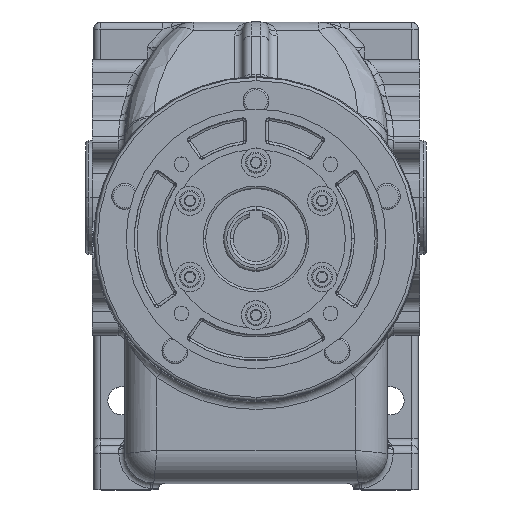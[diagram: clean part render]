
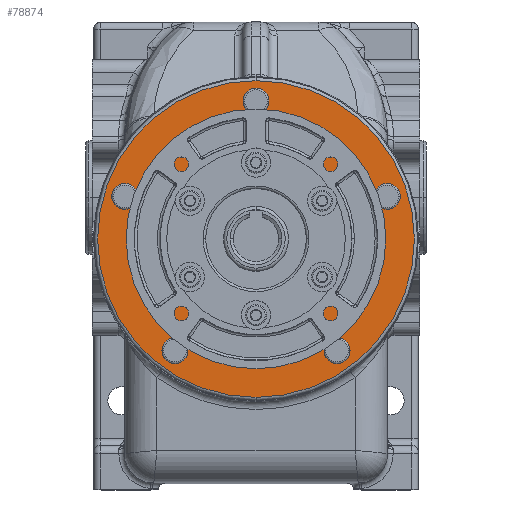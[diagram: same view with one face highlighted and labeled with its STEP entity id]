
A CAD part, top view. The second image highlights one B-rep face of the part: STEP entity #78874.
In plain terms, the highlighted planar face has unit normal (0, 0, 1).
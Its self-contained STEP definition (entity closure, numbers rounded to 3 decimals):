
#11516 = CARTESIAN_POINT ( 'NONE',  ( -57.962, -94.649, 217. ) ) ;
#13809 = CARTESIAN_POINT ( 'NONE',  ( 57.962, -94.649, 217. ) ) ;
#14915 = DIRECTION ( 'NONE',  ( 1., 0., 0. ) ) ;
#14916 = DIRECTION ( 'NONE',  ( 0., 0., 1. ) ) ;
#14917 = CARTESIAN_POINT ( 'NONE',  ( -80.84, 0.384, 217. ) ) ;
#14918 = AXIS2_PLACEMENT_3D ( 'NONE', #14917, #14916, #14915 ) ;
#14919 = CIRCLE ( 'NONE', #14918, 8. ) ;
#14972 = CARTESIAN_POINT ( 'NONE',  ( -88.84, 0.384, 217. ) ) ;
#14978 = DIRECTION ( 'NONE',  ( 1., 0., 0. ) ) ;
#14979 = DIRECTION ( 'NONE',  ( 0., 0., 1. ) ) ;
#14980 = CARTESIAN_POINT ( 'NONE',  ( -49.962, -94.649, 217. ) ) ;
#14981 = AXIS2_PLACEMENT_3D ( 'NONE', #14980, #14979, #14978 ) ;
#14982 = CIRCLE ( 'NONE', #14981, 8. ) ;
#15217 = CARTESIAN_POINT ( 'NONE',  ( -72.84, 0.384, 217. ) ) ;
#15262 = CARTESIAN_POINT ( 'NONE',  ( -41.962, -94.649, 217. ) ) ;
#74820 = VERTEX_POINT ( 'NONE', #100424 ) ;
#74821 = EDGE_CURVE ( 'NONE', #74820, #74822, #100423, .T. ) ;
#74822 = VERTEX_POINT ( 'NONE', #100418 ) ;
#74889 = EDGE_CURVE ( 'NONE', #80994, #74891, #106280, .T. ) ;
#74891 = VERTEX_POINT ( 'NONE', #106271 ) ;
#74893 = VERTEX_POINT ( 'NONE', #106403 ) ;
#74896 = EDGE_CURVE ( 'NONE', #74893, #74897, #106397, .T. ) ;
#74897 = VERTEX_POINT ( 'NONE', #106388 ) ;
#75851 = EDGE_LOOP ( 'NONE', ( #77087, #78990 ) ) ;
#77087 = ORIENTED_EDGE ( 'NONE', *, *, #78988, .F. ) ;
#77114 = EDGE_CURVE ( 'NONE', #77115, #77116, #121313, .T. ) ;
#77115 = VERTEX_POINT ( 'NONE', #121308 ) ;
#77116 = VERTEX_POINT ( 'NONE', #121307 ) ;
#77152 = VERTEX_POINT ( 'NONE', #121409 ) ;
#77234 = EDGE_CURVE ( 'NONE', #77235, #77152, #121566, .T. ) ;
#77235 = VERTEX_POINT ( 'NONE', #121561 ) ;
#78855 = EDGE_CURVE ( 'NONE', #74822, #74820, #125036, .T. ) ;
#78874 = ADVANCED_FACE ( 'NONE', ( #125067, #125066, #125065, #125064, #125063, #125062, #125061 ), #125060, .T. ) ;
#78877 = EDGE_LOOP ( 'NONE', ( #78878, #78881 ) ) ;
#78878 = ORIENTED_EDGE ( 'NONE', *, *, #78880, .F. ) ;
#78880 = EDGE_CURVE ( 'NONE', #80858, #81394, #125049, .T. ) ;
#78881 = ORIENTED_EDGE ( 'NONE', *, *, #81245, .F. ) ;
#78960 = ORIENTED_EDGE ( 'NONE', *, *, #74821, .F. ) ;
#78962 = EDGE_LOOP ( 'NONE', ( #78963, #78966 ) ) ;
#78963 = ORIENTED_EDGE ( 'NONE', *, *, #78965, .F. ) ;
#78965 = EDGE_CURVE ( 'NONE', #74891, #80994, #125190, .T. ) ;
#78966 = ORIENTED_EDGE ( 'NONE', *, *, #74889, .F. ) ;
#78969 = EDGE_LOOP ( 'NONE', ( #78971, #78975 ) ) ;
#78971 = ORIENTED_EDGE ( 'NONE', *, *, #78973, .F. ) ;
#78973 = EDGE_CURVE ( 'NONE', #81251, #81384, #125239, .T. ) ;
#78975 = ORIENTED_EDGE ( 'NONE', *, *, #81240, .F. ) ;
#78988 = EDGE_CURVE ( 'NONE', #74897, #74893, #125283, .T. ) ;
#78990 = ORIENTED_EDGE ( 'NONE', *, *, #74896, .F. ) ;
#78992 = EDGE_LOOP ( 'NONE', ( #78993, #78995 ) ) ;
#78993 = ORIENTED_EDGE ( 'NONE', *, *, #77234, .F. ) ;
#78995 = ORIENTED_EDGE ( 'NONE', *, *, #78997, .F. ) ;
#78997 = EDGE_CURVE ( 'NONE', #77152, #77235, #125271, .T. ) ;
#79000 = EDGE_LOOP ( 'NONE', ( #79002, #79006 ) ) ;
#79002 = ORIENTED_EDGE ( 'NONE', *, *, #79004, .T. ) ;
#79004 = EDGE_CURVE ( 'NONE', #77116, #77115, #125298, .T. ) ;
#79006 = ORIENTED_EDGE ( 'NONE', *, *, #77114, .T. ) ;
#79009 = EDGE_LOOP ( 'NONE', ( #79010, #78960 ) ) ;
#79010 = ORIENTED_EDGE ( 'NONE', *, *, #78855, .F. ) ;
#80858 = VERTEX_POINT ( 'NONE', #11516 ) ;
#80994 = VERTEX_POINT ( 'NONE', #13809 ) ;
#81240 = EDGE_CURVE ( 'NONE', #81384, #81251, #14919, .T. ) ;
#81245 = EDGE_CURVE ( 'NONE', #81394, #80858, #14982, .T. ) ;
#81251 = VERTEX_POINT ( 'NONE', #14972 ) ;
#81384 = VERTEX_POINT ( 'NONE', #15217 ) ;
#81394 = VERTEX_POINT ( 'NONE', #15262 ) ;
#100418 = CARTESIAN_POINT ( 'NONE',  ( -8., 59.117, 217. ) ) ;
#100419 = DIRECTION ( 'NONE',  ( 1., 0., 0. ) ) ;
#100420 = DIRECTION ( 'NONE',  ( 0., 0., 1. ) ) ;
#100421 = CARTESIAN_POINT ( 'NONE',  ( 0., 59.117, 217. ) ) ;
#100422 = AXIS2_PLACEMENT_3D ( 'NONE', #100421, #100420, #100419 ) ;
#100423 = CIRCLE ( 'NONE', #100422, 8. ) ;
#100424 = CARTESIAN_POINT ( 'NONE',  ( 8., 59.117, 217. ) ) ;
#106271 = CARTESIAN_POINT ( 'NONE',  ( 41.962, -94.649, 217. ) ) ;
#106273 = DIRECTION ( 'NONE',  ( 1., 0., 0. ) ) ;
#106275 = DIRECTION ( 'NONE',  ( 0., 0., 1. ) ) ;
#106277 = CARTESIAN_POINT ( 'NONE',  ( 49.962, -94.649, 217. ) ) ;
#106279 = AXIS2_PLACEMENT_3D ( 'NONE', #106277, #106275, #106273 ) ;
#106280 = CIRCLE ( 'NONE', #106279, 8. ) ;
#106388 = CARTESIAN_POINT ( 'NONE',  ( 72.84, 0.384, 217. ) ) ;
#106390 = DIRECTION ( 'NONE',  ( 1., 0., 0. ) ) ;
#106392 = DIRECTION ( 'NONE',  ( 0., 0., 1. ) ) ;
#106394 = CARTESIAN_POINT ( 'NONE',  ( 80.84, 0.384, 217. ) ) ;
#106396 = AXIS2_PLACEMENT_3D ( 'NONE', #106394, #106392, #106390 ) ;
#106397 = CIRCLE ( 'NONE', #106396, 8. ) ;
#106403 = CARTESIAN_POINT ( 'NONE',  ( 88.84, 0.384, 217. ) ) ;
#121307 = CARTESIAN_POINT ( 'NONE',  ( 0., 34.117, 217. ) ) ;
#121308 = CARTESIAN_POINT ( 'NONE',  ( 0., -85.883, 217. ) ) ;
#121309 = DIRECTION ( 'NONE',  ( 0., 1., 0. ) ) ;
#121310 = DIRECTION ( 'NONE',  ( 0., 0., -1. ) ) ;
#121311 = CARTESIAN_POINT ( 'NONE',  ( 0., -25.883, 217. ) ) ;
#121312 = AXIS2_PLACEMENT_3D ( 'NONE', #121311, #121310, #121309 ) ;
#121313 = CIRCLE ( 'NONE', #121312, 60. ) ;
#121409 = CARTESIAN_POINT ( 'NONE',  ( 0., -123.462, 217. ) ) ;
#121561 = CARTESIAN_POINT ( 'NONE',  ( 0., 71.697, 217. ) ) ;
#121562 = DIRECTION ( 'NONE',  ( 0., 1., 0. ) ) ;
#121563 = DIRECTION ( 'NONE',  ( 0., 0., -1. ) ) ;
#121564 = CARTESIAN_POINT ( 'NONE',  ( 0., -25.883, 217. ) ) ;
#121565 = AXIS2_PLACEMENT_3D ( 'NONE', #121564, #121563, #121562 ) ;
#121566 = CIRCLE ( 'NONE', #121565, 97.58 ) ;
#125032 = DIRECTION ( 'NONE',  ( 1., 0., 0. ) ) ;
#125033 = DIRECTION ( 'NONE',  ( 0., 0., 1. ) ) ;
#125034 = CARTESIAN_POINT ( 'NONE',  ( 0., 59.117, 217. ) ) ;
#125035 = AXIS2_PLACEMENT_3D ( 'NONE', #125034, #125033, #125032 ) ;
#125036 = CIRCLE ( 'NONE', #125035, 8. ) ;
#125045 = DIRECTION ( 'NONE',  ( 1., 0., 0. ) ) ;
#125046 = DIRECTION ( 'NONE',  ( 0., 0., 1. ) ) ;
#125047 = CARTESIAN_POINT ( 'NONE',  ( -49.962, -94.649, 217. ) ) ;
#125048 = AXIS2_PLACEMENT_3D ( 'NONE', #125047, #125046, #125045 ) ;
#125049 = CIRCLE ( 'NONE', #125048, 8. ) ;
#125056 = DIRECTION ( 'NONE',  ( 0., -1., 0. ) ) ;
#125057 = DIRECTION ( 'NONE',  ( 0., 0., 1. ) ) ;
#125058 = CARTESIAN_POINT ( 'NONE',  ( 0., 71.697, 217. ) ) ;
#125059 = AXIS2_PLACEMENT_3D ( 'NONE', #125058, #125057, #125056 ) ;
#125060 = PLANE ( 'NONE',  #125059 ) ;
#125061 = FACE_BOUND ( 'NONE', #78969, .T. ) ;
#125062 = FACE_BOUND ( 'NONE', #78962, .T. ) ;
#125063 = FACE_BOUND ( 'NONE', #79009, .T. ) ;
#125064 = FACE_BOUND ( 'NONE', #79000, .T. ) ;
#125065 = FACE_OUTER_BOUND ( 'NONE', #78992, .T. ) ;
#125066 = FACE_BOUND ( 'NONE', #75851, .T. ) ;
#125067 = FACE_BOUND ( 'NONE', #78877, .T. ) ;
#125182 = DIRECTION ( 'NONE',  ( 1., 0., 0. ) ) ;
#125183 = DIRECTION ( 'NONE',  ( 0., 0., 1. ) ) ;
#125184 = CARTESIAN_POINT ( 'NONE',  ( 49.962, -94.649, 217. ) ) ;
#125185 = AXIS2_PLACEMENT_3D ( 'NONE', #125184, #125183, #125182 ) ;
#125190 = CIRCLE ( 'NONE', #125185, 8. ) ;
#125235 = DIRECTION ( 'NONE',  ( 1., 0., 0. ) ) ;
#125236 = DIRECTION ( 'NONE',  ( 0., 0., 1. ) ) ;
#125237 = CARTESIAN_POINT ( 'NONE',  ( -80.84, 0.384, 217. ) ) ;
#125238 = AXIS2_PLACEMENT_3D ( 'NONE', #125237, #125236, #125235 ) ;
#125239 = CIRCLE ( 'NONE', #125238, 8. ) ;
#125263 = DIRECTION ( 'NONE',  ( 0., 1., 0. ) ) ;
#125264 = DIRECTION ( 'NONE',  ( 0., 0., -1. ) ) ;
#125265 = CARTESIAN_POINT ( 'NONE',  ( 0., -25.883, 217. ) ) ;
#125266 = AXIS2_PLACEMENT_3D ( 'NONE', #125265, #125264, #125263 ) ;
#125271 = CIRCLE ( 'NONE', #125266, 97.58 ) ;
#125279 = DIRECTION ( 'NONE',  ( 1., 0., 0. ) ) ;
#125280 = DIRECTION ( 'NONE',  ( 0., 0., 1. ) ) ;
#125281 = CARTESIAN_POINT ( 'NONE',  ( 80.84, 0.384, 217. ) ) ;
#125282 = AXIS2_PLACEMENT_3D ( 'NONE', #125281, #125280, #125279 ) ;
#125283 = CIRCLE ( 'NONE', #125282, 8. ) ;
#125295 = DIRECTION ( 'NONE',  ( 0., 1., 0. ) ) ;
#125296 = DIRECTION ( 'NONE',  ( 0., 0., -1. ) ) ;
#125297 = AXIS2_PLACEMENT_3D ( 'NONE', #125309, #125296, #125295 ) ;
#125298 = CIRCLE ( 'NONE', #125297, 60. ) ;
#125309 = CARTESIAN_POINT ( 'NONE',  ( 0., -25.883, 217. ) ) ;
